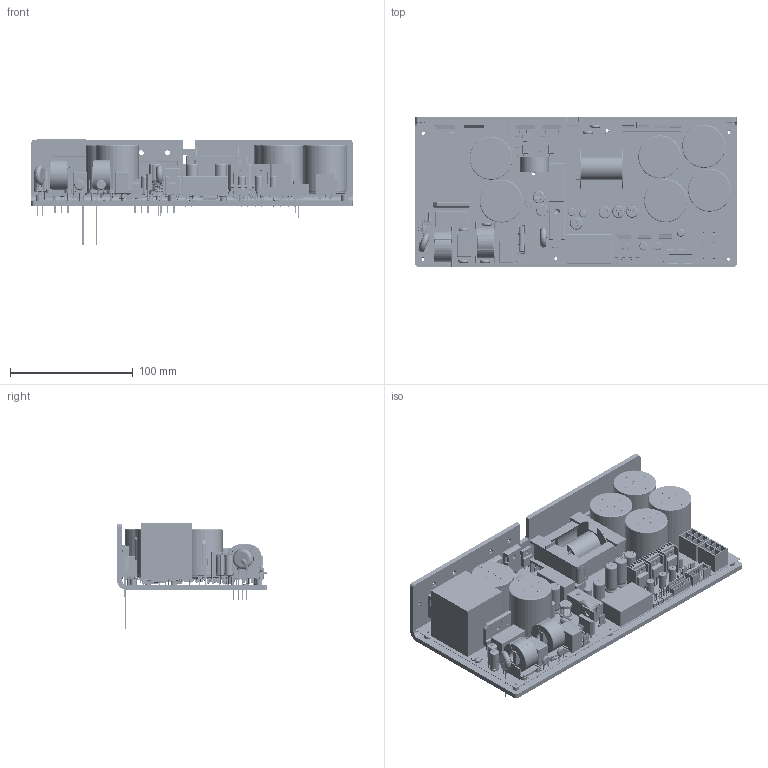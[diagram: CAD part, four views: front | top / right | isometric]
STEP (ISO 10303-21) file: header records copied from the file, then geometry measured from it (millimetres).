
FILE_DESCRIPTION(('Open CASCADE Model'),'2;1');
FILE_NAME('Open CASCADE Shape Model','2022-05-22T22:56:31',('Author'),( 'Open CASCADE'),'Open CASCADE STEP processor 6.8','Open CASCADE 6.8' ,'Unknown');
FILE_SCHEMA(('AUTOMOTIVE_DESIGN { 1 0 10303 214 1 1 1 1 }'));
Length unit declared in the file: millimetre
Products named in the file (443): PCB; Board; Open CASCADE STEP translator 6.8 1.1.1; C66; User_Library-Cap_6_3x11; User_Library-Cap_6.3x11_1_1; User_Library-Cap_6.3x11_2_1; User_Library-Cap_6.3x11_3_1; User_Library-Cap_6.3x11_4_1; User_Library-Cap_6.3x11_5_1; User_Library-Cap_6.3x11_6_1; User_Library-Cap_6.3x11_7_1; User_Library-Cap_6.3x11_8_1; User_Library-Cap_6.3x11_9_1; User_Library-Cap_6.3x11_10_1; C63; J5; 5878965696; Body; LeadsArray; J1; B06P-VL; B06P-VL_Body; B06P-VL_Pin; C43; User_Library-part1-165; C42; C38; C37; J2; C9; User_Library-FILM_BLUE_P2250L2650W1300H2200PD80; CN5; 022112022; Open CASCADE STEP translator 6.8 1.12.1.1; Open CASCADE STEP translator 6.8 1.12.1.2; 6039161248; Extruded; R101; User_Library-Resistor0805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
Assembly tree (753 placements, depth 4):
  PCB
    Board
      Open CASCADE STEP translator 6.8 1.1.1
    C66
      User_Library-Cap_6_3x11
        User_Library-Cap_6.3x11_1_1
        User_Library-Cap_6.3x11_2_1
        User_Library-Cap_6.3x11_3_1
        User_Library-Cap_6.3x11_4_1
        User_Library-Cap_6.3x11_5_1
        User_Library-Cap_6.3x11_6_1
        User_Library-Cap_6.3x11_7_1
        User_Library-Cap_6.3x11_8_1
        User_Library-Cap_6.3x11_9_1
        User_Library-Cap_6.3x11_10_1
    C63
      User_Library-Cap_6_3x11
        User_Library-Cap_6.3x11_1_1
        User_Library-Cap_6.3x11_2_1
        User_Library-Cap_6.3x11_3_1
        User_Library-Cap_6.3x11_4_1
        User_Library-Cap_6.3x11_5_1
        User_Library-Cap_6.3x11_6_1
        User_Library-Cap_6.3x11_7_1
        User_Library-Cap_6.3x11_8_1
        User_Library-Cap_6.3x11_9_1
        User_Library-Cap_6.3x11_10_1
    J5
      5878965696
        Body
        LeadsArray
    J1
      B06P-VL
        B06P-VL_Body
        B06P-VL_Pin  x6
    C43
      User_Library-part1-165
    C42
      User_Library-part1-165
    C38
      User_Library-part1-165
    C37
      User_Library-part1-165
    J2
      B06P-VL
        B06P-VL_Body
        B06P-VL_Pin  x6
    C9
      User_Library-FILM_BLUE_P2250L2650W1300H2200PD80
    CN5
      022112022
        Open CASCADE STEP translator 6.8 1.12.1.1
        Open CASCADE STEP translator 6.8 1.12.1.2
      6039161248
        Extruded
    R101
      User_Library-Resistor0805
    R100
      User_Library-Resistor0805
    R99
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Bounding box: 262 x 122.5 x 86.46 mm (x, y, z)
Volume: 633633.2 mm3; surface area: 338710.1 mm2
Topology: 715 solids, 723 shells, 29542 faces, 73002 edges, 44063 vertices
Faces by surface type: plane 13654, cylinder 7055, bspline 6438, sphere 1499, torus 661, cone 235
Full cylindrical faces by diameter (mm): 0.385 x1, 0.762 x12, 0.8 x24, 0.812 x1, 0.813 x16, 0.9 x5, 1 x151, 1.016 x28, 1.1 x13, 1.118 x12, 1.194 x2, 1.2 x6, 1.27 x9, 1.321 x8, 1.397 x7, 1.499 x2, 1.5 x36, 1.6 x12, 1.651 x3, 1.8 x3, 2 x2, 2.007 x12, 2.05 x12, 2.8 x2, 3 x1, 3.1 x6, 4.5 x2
Entity records: 332652 total; most frequent: CARTESIAN_POINT 118686, ORIENTED_EDGE 37484, DIRECTION 33181, EDGE_CURVE 18751, LINE 12093, VECTOR 12093, VERTEX_POINT 11982, AXIS2_PLACEMENT_3D 10544
